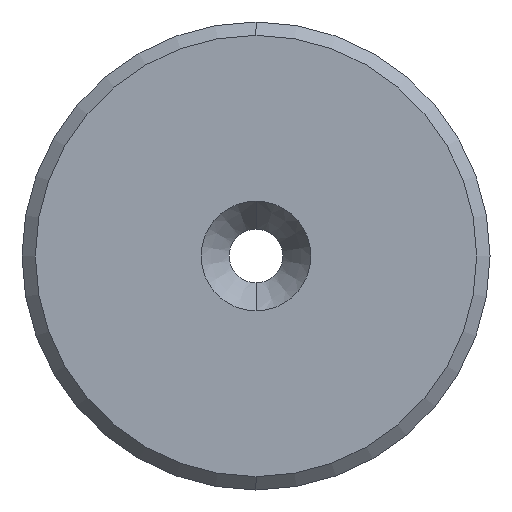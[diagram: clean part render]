
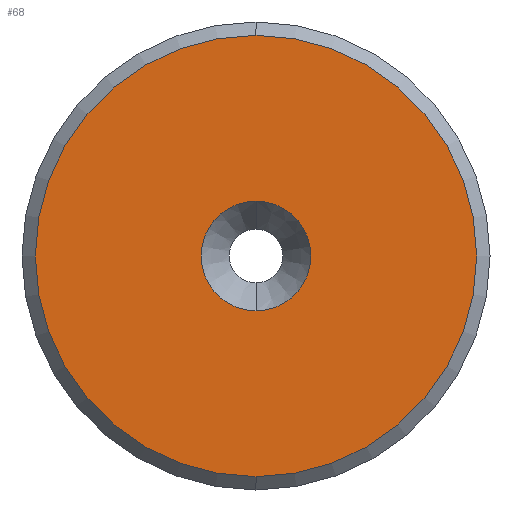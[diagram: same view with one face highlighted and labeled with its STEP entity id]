
A CAD part, left-side view. The second image highlights one B-rep face of the part: STEP entity #68.
In plain terms, the highlighted planar face has unit normal (-1, 0, 0).
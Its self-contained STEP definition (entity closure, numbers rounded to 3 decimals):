
#1 = ORIENTED_EDGE ( 'NONE', *, *, #350, .T. ) ;
#2 = AXIS2_PLACEMENT_3D ( 'NONE', #151, #456, #232 ) ;
#10 = FACE_BOUND ( 'NONE', #62, .T. ) ;
#15 = CARTESIAN_POINT ( 'NONE',  ( 0., 0., 0. ) ) ;
#17 = CIRCLE ( 'NONE', #165, 16.5 ) ;
#20 = DIRECTION ( 'NONE',  ( -1., 0., 0. ) ) ;
#24 = DIRECTION ( 'NONE',  ( 0., 0., 1. ) ) ;
#55 = CARTESIAN_POINT ( 'NONE',  ( 0., 0., 0. ) ) ;
#59 = DIRECTION ( 'NONE',  ( -1., 0., 0. ) ) ;
#62 = EDGE_LOOP ( 'NONE', ( #337, #387 ) ) ;
#68 = ADVANCED_FACE ( 'NONE', ( #114, #10 ), #300, .F. ) ;
#69 = DIRECTION ( 'NONE',  ( 0., 0., -1. ) ) ;
#81 = EDGE_CURVE ( 'NONE', #451, #433, #496, .T. ) ;
#114 = FACE_OUTER_BOUND ( 'NONE', #291, .T. ) ;
#125 = VERTEX_POINT ( 'NONE', #464 ) ;
#137 = CARTESIAN_POINT ( 'NONE',  ( 0., 0., 4.101 ) ) ;
#151 = CARTESIAN_POINT ( 'NONE',  ( 0., 0., 0. ) ) ;
#153 = VERTEX_POINT ( 'NONE', #174 ) ;
#165 = AXIS2_PLACEMENT_3D ( 'NONE', #325, #326, #467 ) ;
#171 = ORIENTED_EDGE ( 'NONE', *, *, #196, .T. ) ;
#174 = CARTESIAN_POINT ( 'NONE',  ( 0., 0., 16.5 ) ) ;
#196 = EDGE_CURVE ( 'NONE', #153, #125, #17, .T. ) ;
#202 = AXIS2_PLACEMENT_3D ( 'NONE', #15, #20, #24 ) ;
#232 = DIRECTION ( 'NONE',  ( 0., 0., 1. ) ) ;
#233 = AXIS2_PLACEMENT_3D ( 'NONE', #482, #264, #413 ) ;
#262 = CARTESIAN_POINT ( 'NONE',  ( 0., 0., -4.101 ) ) ;
#264 = DIRECTION ( 'NONE',  ( 1., 0., 0. ) ) ;
#286 = CIRCLE ( 'NONE', #2, 4.101 ) ;
#291 = EDGE_LOOP ( 'NONE', ( #1, #171 ) ) ;
#300 = PLANE ( 'NONE',  #233 ) ;
#325 = CARTESIAN_POINT ( 'NONE',  ( 0., 0., 0. ) ) ;
#326 = DIRECTION ( 'NONE',  ( -1., 0., 0. ) ) ;
#337 = ORIENTED_EDGE ( 'NONE', *, *, #375, .F. ) ;
#350 = EDGE_CURVE ( 'NONE', #125, #153, #400, .T. ) ;
#375 = EDGE_CURVE ( 'NONE', #433, #451, #286, .T. ) ;
#387 = ORIENTED_EDGE ( 'NONE', *, *, #81, .F. ) ;
#400 = CIRCLE ( 'NONE', #468, 16.5 ) ;
#413 = DIRECTION ( 'NONE',  ( 0., 0., -1. ) ) ;
#433 = VERTEX_POINT ( 'NONE', #137 ) ;
#451 = VERTEX_POINT ( 'NONE', #262 ) ;
#456 = DIRECTION ( 'NONE',  ( -1., 0., 0. ) ) ;
#464 = CARTESIAN_POINT ( 'NONE',  ( 0., 0., -16.5 ) ) ;
#467 = DIRECTION ( 'NONE',  ( 0., 0., -1. ) ) ;
#468 = AXIS2_PLACEMENT_3D ( 'NONE', #55, #59, #69 ) ;
#482 = CARTESIAN_POINT ( 'NONE',  ( 0., 4.101, 0. ) ) ;
#496 = CIRCLE ( 'NONE', #202, 4.101 ) ;
